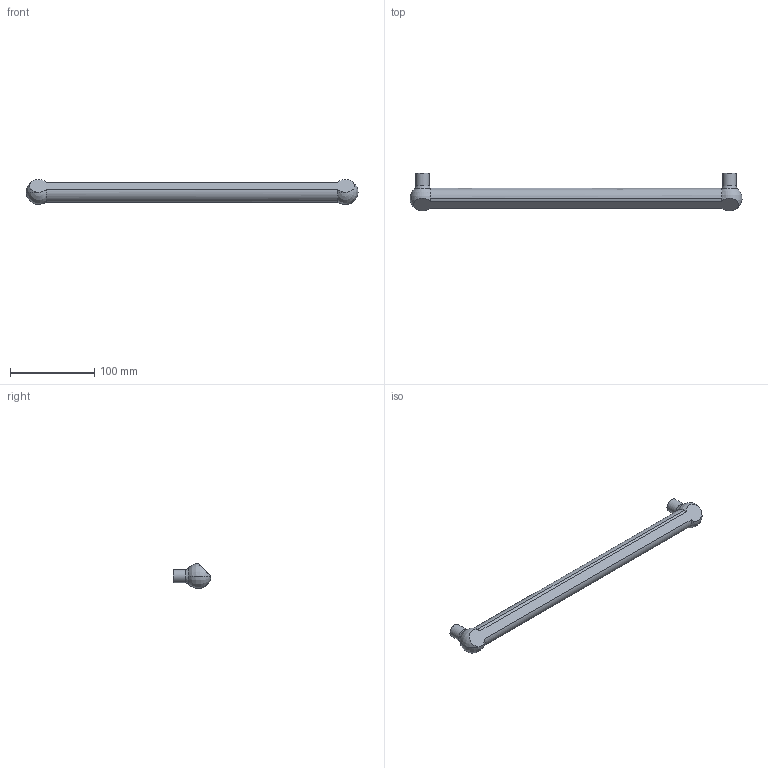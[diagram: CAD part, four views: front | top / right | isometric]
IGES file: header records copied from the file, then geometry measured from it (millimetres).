
Start section: Data from Parasolid IGES Translator 15.0.47, Copyright(c) 2006 Siemens P LM Software. All Rights Reserved.
Global section: file name: 9105769.igs; native system:  By UGS Corp.; preprocessor: XPlus GENERIC/IGES 3.0; author: Noname; organization: Noname; date: 20140122.155740; units: millimetre
Bounding box: 394.88 x 45 x 29.67 mm (x, y, z)
Surface area: 32294.5 mm2 (no closed solid volume)
Topology: 0 solids, 0 shells, 17 faces, 78 edges, 68 vertices
Faces by surface type: revolution 12, extrusion 5
